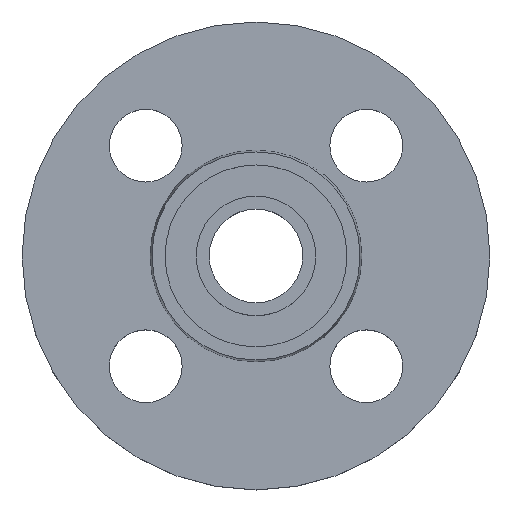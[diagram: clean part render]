
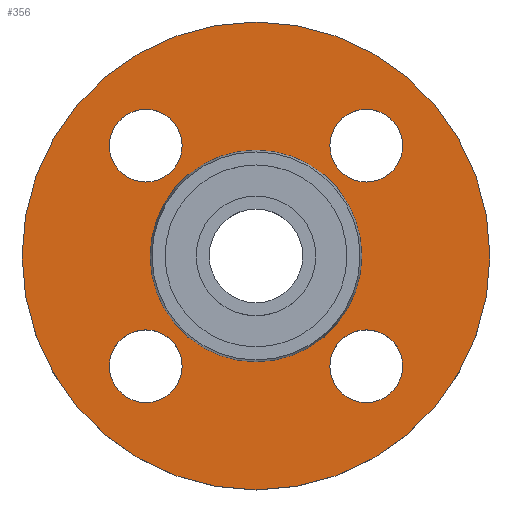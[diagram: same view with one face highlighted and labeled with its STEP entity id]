
A CAD part, top view. The second image highlights one B-rep face of the part: STEP entity #356.
In plain terms, the highlighted planar face has unit normal (0, 0, 1).
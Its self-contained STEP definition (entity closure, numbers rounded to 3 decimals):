
#4 = VERTEX_POINT ( 'NONE', #517 ) ;
#16 = CIRCLE ( 'NONE', #640, 20.353 ) ;
#18 = VERTEX_POINT ( 'NONE', #453 ) ;
#20 = VERTEX_POINT ( 'NONE', #438 ) ;
#22 = VERTEX_POINT ( 'NONE', #431 ) ;
#33 = EDGE_LOOP ( 'NONE', ( #225, #227 ) ) ;
#34 = CARTESIAN_POINT ( 'NONE',  ( 20.353, 0., -2. ) ) ;
#44 = AXIS2_PLACEMENT_3D ( 'NONE', #159, #189, #191 ) ;
#51 = CIRCLE ( 'NONE', #312, 20.353 ) ;
#65 = VERTEX_POINT ( 'NONE', #379 ) ;
#66 = EDGE_LOOP ( 'NONE', ( #214, #218 ) ) ;
#69 = AXIS2_PLACEMENT_3D ( 'NONE', #509, #471, #468 ) ;
#78 = CIRCLE ( 'NONE', #44, 7. ) ;
#79 = EDGE_CURVE ( 'NONE', #141, #65, #630, .T. ) ;
#83 = AXIS2_PLACEMENT_3D ( 'NONE', #716, #718, #719 ) ;
#130 = AXIS2_PLACEMENT_3D ( 'NONE', #343, #350, #352 ) ;
#133 = EDGE_LOOP ( 'NONE', ( #222, #224 ) ) ;
#141 = VERTEX_POINT ( 'NONE', #289 ) ;
#154 = VERTEX_POINT ( 'NONE', #240 ) ;
#156 = EDGE_LOOP ( 'NONE', ( #228, #232 ) ) ;
#157 = CIRCLE ( 'NONE', #130, 7. ) ;
#159 = CARTESIAN_POINT ( 'NONE',  ( 21.213, -21.213, -2. ) ) ;
#164 = AXIS2_PLACEMENT_3D ( 'NONE', #626, #368, #369 ) ;
#167 = CIRCLE ( 'NONE', #164, 7. ) ;
#168 = DIRECTION ( 'NONE',  ( 1., 0., 0. ) ) ;
#173 = DIRECTION ( 'NONE',  ( 0., 0., -1. ) ) ;
#174 = EDGE_LOOP ( 'NONE', ( #233, #234 ) ) ;
#182 = CARTESIAN_POINT ( 'NONE',  ( -21.213, 21.213, -2. ) ) ;
#187 = EDGE_CURVE ( 'NONE', #474, #20, #688, .T. ) ;
#189 = DIRECTION ( 'NONE',  ( 0., 0., -1. ) ) ;
#191 = DIRECTION ( 'NONE',  ( 1., 0., 0. ) ) ;
#194 = CARTESIAN_POINT ( 'NONE',  ( 0., 0., -2. ) ) ;
#214 = ORIENTED_EDGE ( 'NONE', *, *, #406, .T. ) ;
#217 = DIRECTION ( 'NONE',  ( 0., 0., -1. ) ) ;
#218 = ORIENTED_EDGE ( 'NONE', *, *, #686, .T. ) ;
#220 = ORIENTED_EDGE ( 'NONE', *, *, #384, .T. ) ;
#221 = ORIENTED_EDGE ( 'NONE', *, *, #631, .T. ) ;
#222 = ORIENTED_EDGE ( 'NONE', *, *, #187, .T. ) ;
#224 = ORIENTED_EDGE ( 'NONE', *, *, #579, .T. ) ;
#225 = ORIENTED_EDGE ( 'NONE', *, *, #300, .T. ) ;
#227 = ORIENTED_EDGE ( 'NONE', *, *, #507, .T. ) ;
#228 = ORIENTED_EDGE ( 'NONE', *, *, #382, .T. ) ;
#232 = ORIENTED_EDGE ( 'NONE', *, *, #656, .T. ) ;
#233 = ORIENTED_EDGE ( 'NONE', *, *, #79, .F. ) ;
#234 = ORIENTED_EDGE ( 'NONE', *, *, #501, .F. ) ;
#240 = CARTESIAN_POINT ( 'NONE',  ( 28.213, -21.213, -2. ) ) ;
#258 = EDGE_LOOP ( 'NONE', ( #220, #221 ) ) ;
#262 = DIRECTION ( 'NONE',  ( -1., 0., 0. ) ) ;
#285 = VERTEX_POINT ( 'NONE', #34 ) ;
#289 = CARTESIAN_POINT ( 'NONE',  ( 45., 0., -2. ) ) ;
#300 = EDGE_CURVE ( 'NONE', #22, #478, #325, .T. ) ;
#304 = AXIS2_PLACEMENT_3D ( 'NONE', #194, #217, #262 ) ;
#312 = AXIS2_PLACEMENT_3D ( 'NONE', #527, #522, #514 ) ;
#325 = CIRCLE ( 'NONE', #472, 7. ) ;
#337 = CARTESIAN_POINT ( 'NONE',  ( 14.213, 21.213, -2. ) ) ;
#343 = CARTESIAN_POINT ( 'NONE',  ( 21.213, 21.213, -2. ) ) ;
#350 = DIRECTION ( 'NONE',  ( 0., 0., -1. ) ) ;
#351 = DIRECTION ( 'NONE',  ( -1., 0., 0. ) ) ;
#352 = DIRECTION ( 'NONE',  ( 1., 0., 0. ) ) ;
#353 = DIRECTION ( 'NONE',  ( 0., 0., -1. ) ) ;
#356 = ADVANCED_FACE ( 'NONE', ( #618, #617, #616, #611, #610, #601 ), #599, .T. ) ;
#359 = CARTESIAN_POINT ( 'NONE',  ( 0., 0., -2. ) ) ;
#360 = CIRCLE ( 'NONE', #676, 7. ) ;
#368 = DIRECTION ( 'NONE',  ( 0., 0., -1. ) ) ;
#369 = DIRECTION ( 'NONE',  ( 1., 0., 0. ) ) ;
#370 = CIRCLE ( 'NONE', #304, 45. ) ;
#374 = AXIS2_PLACEMENT_3D ( 'NONE', #359, #353, #351 ) ;
#379 = CARTESIAN_POINT ( 'NONE',  ( -45., 0., -2. ) ) ;
#382 = EDGE_CURVE ( 'NONE', #465, #285, #51, .T. ) ;
#384 = EDGE_CURVE ( 'NONE', #18, #557, #672, .T. ) ;
#399 = CARTESIAN_POINT ( 'NONE',  ( -20.353, 0., -2. ) ) ;
#406 = EDGE_CURVE ( 'NONE', #154, #4, #78, .T. ) ;
#430 = CIRCLE ( 'NONE', #83, 7. ) ;
#431 = CARTESIAN_POINT ( 'NONE',  ( 28.213, 21.213, -2. ) ) ;
#437 = CARTESIAN_POINT ( 'NONE',  ( -14.213, 21.213, -2. ) ) ;
#438 = CARTESIAN_POINT ( 'NONE',  ( -28.213, 21.213, -2. ) ) ;
#453 = CARTESIAN_POINT ( 'NONE',  ( -14.213, -21.213, -2. ) ) ;
#465 = VERTEX_POINT ( 'NONE', #399 ) ;
#468 = DIRECTION ( 'NONE',  ( 1., 0., 0. ) ) ;
#471 = DIRECTION ( 'NONE',  ( 0., 0., -1. ) ) ;
#472 = AXIS2_PLACEMENT_3D ( 'NONE', #715, #710, #704 ) ;
#474 = VERTEX_POINT ( 'NONE', #437 ) ;
#478 = VERTEX_POINT ( 'NONE', #337 ) ;
#483 = AXIS2_PLACEMENT_3D ( 'NONE', #597, #595, #592 ) ;
#491 = CARTESIAN_POINT ( 'NONE',  ( -21.213, -21.213, -2. ) ) ;
#493 = DIRECTION ( 'NONE',  ( 0., 0., -1. ) ) ;
#494 = DIRECTION ( 'NONE',  ( 1., 0., 0. ) ) ;
#501 = EDGE_CURVE ( 'NONE', #65, #141, #370, .T. ) ;
#507 = EDGE_CURVE ( 'NONE', #478, #22, #157, .T. ) ;
#509 = CARTESIAN_POINT ( 'NONE',  ( -21.213, -21.213, -2. ) ) ;
#514 = DIRECTION ( 'NONE',  ( -1., 0., 0. ) ) ;
#517 = CARTESIAN_POINT ( 'NONE',  ( 14.213, -21.213, -2. ) ) ;
#522 = DIRECTION ( 'NONE',  ( 0., 0., -1. ) ) ;
#527 = CARTESIAN_POINT ( 'NONE',  ( 0., 0., -2. ) ) ;
#548 = CARTESIAN_POINT ( 'NONE',  ( -28.213, -21.213, -2. ) ) ;
#555 = CARTESIAN_POINT ( 'NONE',  ( 0., 0., -2. ) ) ;
#556 = DIRECTION ( 'NONE',  ( 0., 0., -1. ) ) ;
#557 = VERTEX_POINT ( 'NONE', #548 ) ;
#558 = DIRECTION ( 'NONE',  ( -1., 0., 0. ) ) ;
#579 = EDGE_CURVE ( 'NONE', #20, #474, #167, .T. ) ;
#592 = DIRECTION ( 'NONE',  ( 1., 0., 0. ) ) ;
#595 = DIRECTION ( 'NONE',  ( 0., 0., 1. ) ) ;
#597 = CARTESIAN_POINT ( 'NONE',  ( 20.353, 0., -2. ) ) ;
#598 = AXIS2_PLACEMENT_3D ( 'NONE', #182, #173, #168 ) ;
#599 = PLANE ( 'NONE',  #483 ) ;
#601 = FACE_OUTER_BOUND ( 'NONE', #174, .T. ) ;
#610 = FACE_BOUND ( 'NONE', #156, .T. ) ;
#611 = FACE_BOUND ( 'NONE', #33, .T. ) ;
#616 = FACE_BOUND ( 'NONE', #133, .T. ) ;
#617 = FACE_BOUND ( 'NONE', #258, .T. ) ;
#618 = FACE_BOUND ( 'NONE', #66, .T. ) ;
#626 = CARTESIAN_POINT ( 'NONE',  ( -21.213, 21.213, -2. ) ) ;
#630 = CIRCLE ( 'NONE', #374, 45. ) ;
#631 = EDGE_CURVE ( 'NONE', #557, #18, #360, .T. ) ;
#640 = AXIS2_PLACEMENT_3D ( 'NONE', #555, #556, #558 ) ;
#656 = EDGE_CURVE ( 'NONE', #285, #465, #16, .T. ) ;
#672 = CIRCLE ( 'NONE', #69, 7. ) ;
#676 = AXIS2_PLACEMENT_3D ( 'NONE', #491, #493, #494 ) ;
#686 = EDGE_CURVE ( 'NONE', #4, #154, #430, .T. ) ;
#688 = CIRCLE ( 'NONE', #598, 7. ) ;
#704 = DIRECTION ( 'NONE',  ( 1., 0., 0. ) ) ;
#710 = DIRECTION ( 'NONE',  ( 0., 0., -1. ) ) ;
#715 = CARTESIAN_POINT ( 'NONE',  ( 21.213, 21.213, -2. ) ) ;
#716 = CARTESIAN_POINT ( 'NONE',  ( 21.213, -21.213, -2. ) ) ;
#718 = DIRECTION ( 'NONE',  ( 0., 0., -1. ) ) ;
#719 = DIRECTION ( 'NONE',  ( 1., 0., 0. ) ) ;
